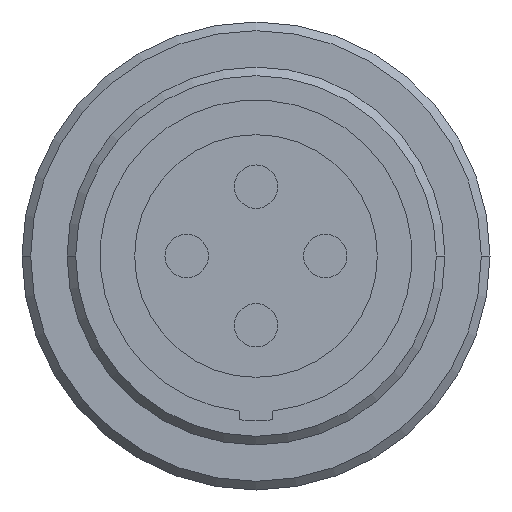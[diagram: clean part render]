
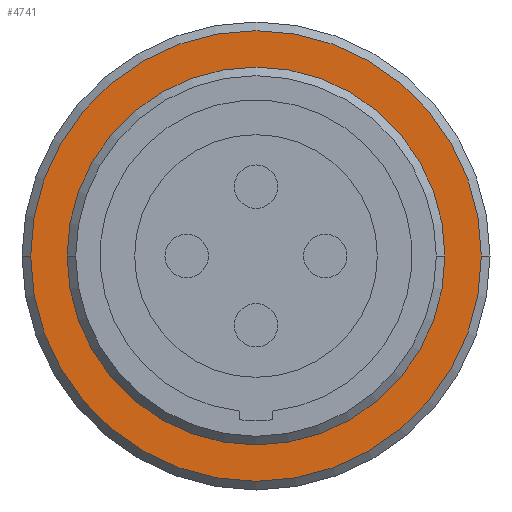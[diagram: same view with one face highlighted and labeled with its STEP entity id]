
A CAD part, left-side view. The second image highlights one B-rep face of the part: STEP entity #4741.
In plain terms, the highlighted planar face has unit normal (-1, 0, 0) as drawn and (1, 0, 0) by its records, which use the part's own axes.
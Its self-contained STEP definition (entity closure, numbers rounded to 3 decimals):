
#3181=CARTESIAN_POINT('',(30.8,0.,0.));
#3182=DIRECTION('',(1.,0.,0.));
#3183=DIRECTION('',(0.,0.,-1.));
#3184=AXIS2_PLACEMENT_3D('',#3181,#3182,#3183);
#3186=CARTESIAN_POINT('',(30.8,0.,0.));
#3187=DIRECTION('',(-1.,0.,0.));
#3188=DIRECTION('',(0.,0.,-1.));
#3189=AXIS2_PLACEMENT_3D('',#3186,#3187,#3188);
#3191=CARTESIAN_POINT('',(30.8,0.,0.));
#3192=DIRECTION('',(-1.,0.,0.));
#3193=DIRECTION('',(0.,0.,1.));
#3194=AXIS2_PLACEMENT_3D('',#3191,#3192,#3193);
#3196=CARTESIAN_POINT('',(30.8,0.,0.));
#3197=DIRECTION('',(-1.,0.,0.));
#3198=DIRECTION('',(0.,0.,-1.));
#3199=AXIS2_PLACEMENT_3D('',#3196,#3197,#3198);
#4061=CARTESIAN_POINT('',(30.8,0.,-10.9));
#4062=CARTESIAN_POINT('',(30.8,0.,10.9));
#4063=VERTEX_POINT('',#4061);
#4064=VERTEX_POINT('',#4062);
#4341=CARTESIAN_POINT('',(30.8,0.,13.));
#4342=CARTESIAN_POINT('',(30.8,0.,-13.));
#4343=VERTEX_POINT('',#4341);
#4344=VERTEX_POINT('',#4342);
#4726=CARTESIAN_POINT('',(30.8,0.,0.));
#4727=DIRECTION('',(1.,0.,0.));
#4728=DIRECTION('',(0.,0.,1.));
#4729=AXIS2_PLACEMENT_3D('',#4726,#4727,#4728);
#4730=PLANE('',#4729);
#4732=ORIENTED_EDGE('',*,*,#4731,.T.);
#4734=ORIENTED_EDGE('',*,*,#4733,.T.);
#4735=EDGE_LOOP('',(#4732,#4734));
#4736=FACE_OUTER_BOUND('',#4735,.F.);
#4737=ORIENTED_EDGE('',*,*,#4693,.T.);
#4738=ORIENTED_EDGE('',*,*,#4708,.F.);
#4739=EDGE_LOOP('',(#4737,#4738));
#4740=FACE_BOUND('',#4739,.F.);
#3185=CIRCLE('',#3184,10.9);
#3190=CIRCLE('',#3189,10.9);
#3195=CIRCLE('',#3194,13.);
#3200=CIRCLE('',#3199,13.);
#4693=EDGE_CURVE('',#4063,#4064,#3185,.T.);
#4708=EDGE_CURVE('',#4063,#4064,#3190,.T.);
#4731=EDGE_CURVE('',#4343,#4344,#3195,.T.);
#4733=EDGE_CURVE('',#4344,#4343,#3200,.T.);
#4741=ADVANCED_FACE('',(#4736,#4740),#4730,.T.);
